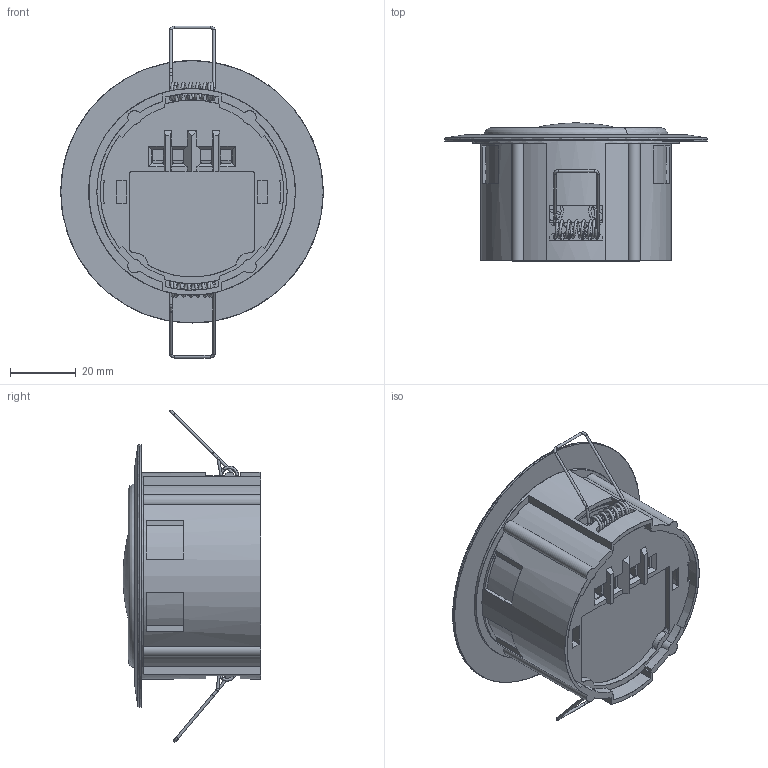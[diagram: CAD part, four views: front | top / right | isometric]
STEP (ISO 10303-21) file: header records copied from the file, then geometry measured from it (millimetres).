
FILE_DESCRIPTION(('STEP AP214'),'2;1');
FILE_NAME('1831_rev01.stp','2015-05-22T11:53:44',(''),(''),'2007.1.106','THINKDESIGN','');
FILE_SCHEMA(('AUTOMOTIVE_DESIGN'));
Length unit declared in the file: millimetre
Products named in the file (1): top
Bounding box: 80 x 42.03 x 101.18 mm (x, y, z)
Surface area: 37986.3 mm2 (no closed solid volume)
Topology: 0 solids, 0 shells, 389 faces, 2539 edges, 2480 vertices
Faces by surface type: plane 209, cylinder 115, bspline 65
Full cylindrical faces by diameter (mm): 0.8 x10, 5 x2, 44.8 x1, 47 x1, 63 x1, 80 x1
Entity records: 27573 total; most frequent: CARTESIAN_POINT 14789, DIRECTION 2755, COMPOSITE_CURVE_SEGMENT 2538, TRIMMED_CURVE 1719, VECTOR 1367, LINE 1367, AXIS2_PLACEMENT_3D 694, OUTER_BOUNDARY_CURVE 389
